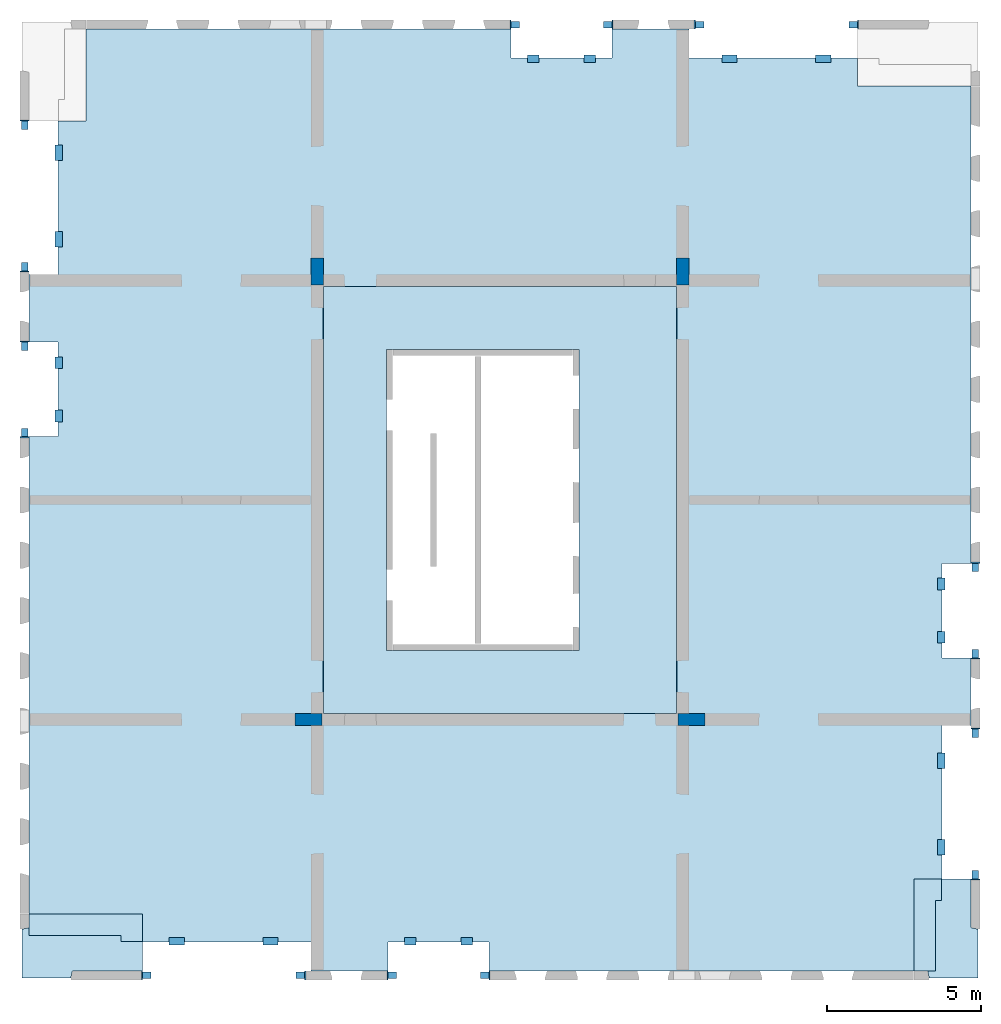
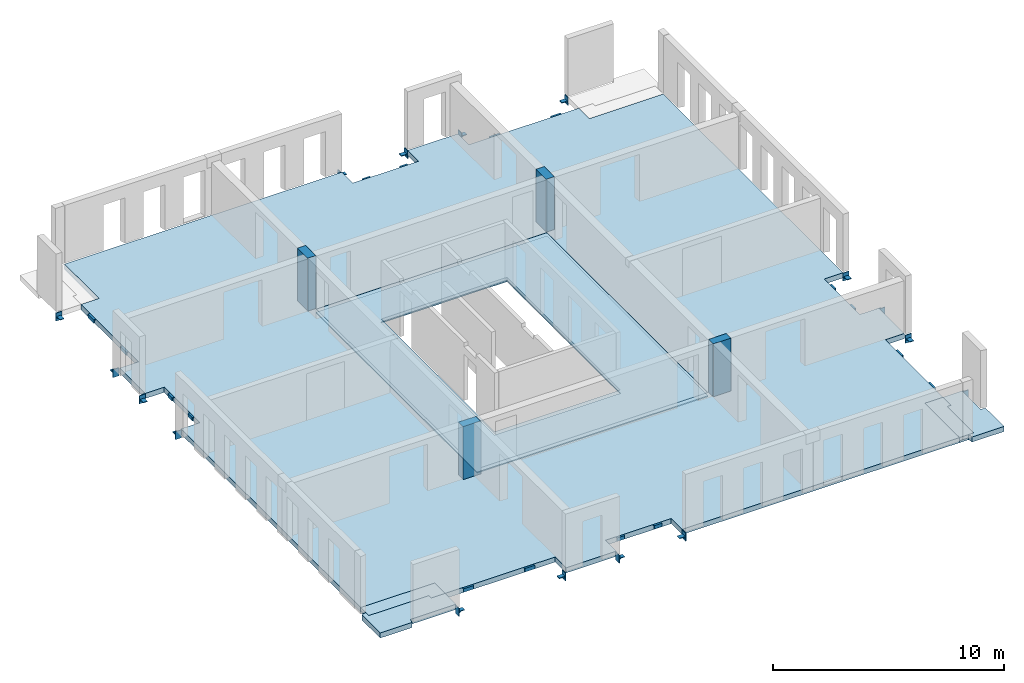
# One storey, part 1 of 4: 32 beams, 7 slabs, 4 columns, 3 openings.
"""IFC2X3 building model written with IfcOpenShell, lengths in millimetres."""

from ifc_helpers import new_model, entity, si_unit, converted_unit, derived_unit, direction, frame, frame_2d, origin, origin_2d_with_axis, place, context, subcontext, project, spatial, polyline, rectangle, outline, extrude, source, transform, mapped, material, layer, layer_set, layer_usage, type_object, type_shapes, element, save


model = new_model("IFC2X3")

# Units and contexts
model_context = context("Model", 3, precision=0.01, world=origin(), true_north=direction((6.12303176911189e-17, 1.0)))
body_context = subcontext(model_context, "Body", "Model", "MODEL_VIEW")
ifc_project = project(units=[si_unit("LENGTHUNIT", "METRE", prefix="MILLI"), si_unit("AREAUNIT", "SQUARE_METRE"), si_unit("VOLUMEUNIT", "CUBIC_METRE"), converted_unit("PLANEANGLEUNIT", "DEGREE", entity("IfcRatioMeasure", 0.0174532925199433), si_unit("PLANEANGLEUNIT", "RADIAN"), dimensions=[0, 0, 0, 0, 0, 0, 0]), si_unit("MASSUNIT", "GRAM", prefix="KILO"), derived_unit("MASSDENSITYUNIT", [(si_unit("MASSUNIT", "GRAM", prefix="KILO"), 1), (si_unit("LENGTHUNIT", "METRE"), -3)]), si_unit("TIMEUNIT", "SECOND"), si_unit("FREQUENCYUNIT", "HERTZ"), si_unit("THERMODYNAMICTEMPERATUREUNIT", "DEGREE_CELSIUS"), derived_unit("THERMALTRANSMITTANCEUNIT", [(si_unit("MASSUNIT", "GRAM", prefix="KILO"), 1), (si_unit("THERMODYNAMICTEMPERATUREUNIT", "KELVIN"), -1), (si_unit("TIMEUNIT", "SECOND"), -3)]), derived_unit("VOLUMETRICFLOWRATEUNIT", [(si_unit("LENGTHUNIT", "METRE"), 3), (si_unit("TIMEUNIT", "SECOND"), -1)]), si_unit("ELECTRICCURRENTUNIT", "AMPERE"), si_unit("ELECTRICVOLTAGEUNIT", "VOLT"), si_unit("POWERUNIT", "WATT"), si_unit("FORCEUNIT", "NEWTON", prefix="KILO"), si_unit("ILLUMINANCEUNIT", "LUX"), si_unit("LUMINOUSFLUXUNIT", "LUMEN"), si_unit("LUMINOUSINTENSITYUNIT", "CANDELA"), derived_unit("USERDEFINED", [(si_unit("MASSUNIT", "GRAM", prefix="KILO"), -1), (si_unit("LENGTHUNIT", "METRE"), -2), (si_unit("TIMEUNIT", "SECOND"), 3), (si_unit("LUMINOUSFLUXUNIT", "LUMEN"), 1)]), derived_unit("LINEARVELOCITYUNIT", [(si_unit("LENGTHUNIT", "METRE"), 1), (si_unit("TIMEUNIT", "SECOND"), -1)]), si_unit("PRESSUREUNIT", "PASCAL"), derived_unit("USERDEFINED", [(si_unit("LENGTHUNIT", "METRE"), -2), (si_unit("MASSUNIT", "GRAM", prefix="KILO"), 1), (si_unit("TIMEUNIT", "SECOND"), -2)])], contexts=[model_context])

# Site, building, storey
site_placement = place(None, origin())
site = spatial("IfcSite", under=ifc_project, at=site_placement, Name="Default", CompositionType="ELEMENT")
building_placement = place(site_placement, origin())
building = spatial("IfcBuilding", under=site, at=building_placement, Name="niet gebruiken", CompositionType="ELEMENT")
storey_placement = place(building_placement, frame((0.0, 0.0, 79200.0)))
storey = spatial("IfcBuildingStorey", under=building, at=storey_placement, Name="25 vijfentwintigste verdieping", CompositionType="ELEMENT", Elevation=79200.0000000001)

# Columns
ifc_material_1 = material(Name="NLRS_f2_beton ihwg")
column_type_1 = type_object("IfcColumnType", Name="400x880", PredefinedType="COLUMN", material=ifc_material_1)
shared_shape_1 = source(origin(), body_context, "Body", "SweptSolid", [
    extrude(rectangle(XDim=879.999999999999, YDim=399.999999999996, at=frame_2d((0.0, -1.73230318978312e-11), x_axis=(1.0, 0.0))), frame((135800.0, 24940.0, 79110.0), z_axis=(0.0, 0.0, 1.0), x_axis=(0.0, -1.0, 0.0)), (0.0, 0.0, 1.0), 2789.99999999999),
])
type_shapes(column_type_1, [shared_shape_1])
column_1_placement = place(storey_placement, frame((0.0, 0.0, -79200.0)))
element("IfcColumn", 1, at=column_1_placement, inside=storey, type_object=column_type_1, material=ifc_material_1, Name="NLRS_28.11_SCO_TLB_beton kolom ihwg_gen:400x880", ObjectType="400x880", context=body_context, shape_type="MappedRepresentation", body=[
    mapped(shared_shape_1, transform((0.0, 0.0, 0.0), scale=1.0)),
])
column_type_2 = type_object("IfcColumnType", Name="400x880", PredefinedType="COLUMN", material=ifc_material_1)
shared_shape_2 = source(origin(), body_context, "Body", "SweptSolid", [
    extrude(rectangle(XDim=879.999999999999, YDim=399.999999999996, at=origin_2d_with_axis()), frame((147700.0, 24940.0, 79110.0), z_axis=(0.0, 0.0, 1.0), x_axis=(0.0, -1.0, 0.0)), (0.0, 0.0, 1.0), 2789.99999999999),
])
type_shapes(column_type_2, [shared_shape_2])
column_2_placement = place(storey_placement, frame((0.0, 0.0, -79200.0)))
element("IfcColumn", 2, at=column_2_placement, inside=storey, type_object=column_type_2, material=ifc_material_1, Name="NLRS_28.11_SCO_TLB_beton kolom ihwg_gen:400x880", ObjectType="400x880", context=body_context, shape_type="MappedRepresentation", body=[
    mapped(shared_shape_2, transform((0.0, 0.0, 0.0), scale=1.0)),
])
column_type_3 = type_object("IfcColumnType", Name="400x880", PredefinedType="COLUMN", material=ifc_material_1)
shared_shape_3 = source(origin(), body_context, "Body", "SweptSolid", [
    extrude(rectangle(XDim=400.000000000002, YDim=880.000000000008, at=origin_2d_with_axis()), frame((135510.003540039, 10350.0, 79110.0), z_axis=(0.0, 0.0, 1.0), x_axis=(0.0, -1.0, 0.0)), (0.0, 0.0, 1.0), 2789.99999999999),
])
type_shapes(column_type_3, [shared_shape_3])
column_3_placement = place(storey_placement, frame((0.0, 0.0, -79200.0)))
element("IfcColumn", 3, at=column_3_placement, inside=storey, type_object=column_type_3, material=ifc_material_1, Name="NLRS_28.11_SCO_TLB_beton kolom ihwg_gen:400x880", ObjectType="400x880", context=body_context, shape_type="MappedRepresentation", body=[
    mapped(shared_shape_3, transform((0.0, 0.0, 0.0), scale=1.0)),
])
column_type_4 = type_object("IfcColumnType", Name="400x880", PredefinedType="COLUMN", material=ifc_material_1)
shared_shape_4 = source(origin(), body_context, "Body", "SweptSolid", [
    extrude(rectangle(XDim=400.000000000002, YDim=880.000000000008, at=origin_2d_with_axis()), frame((147990.0, 10350.0, 79110.0), z_axis=(0.0, 0.0, 1.0), x_axis=(0.0, -1.0, 0.0)), (0.0, 0.0, 1.0), 2789.99999999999),
])
type_shapes(column_type_4, [shared_shape_4])
column_4_placement = place(storey_placement, frame((0.0, 0.0, -79200.0)))
element("IfcColumn", 4, at=column_4_placement, inside=storey, type_object=column_type_4, material=ifc_material_1, Name="NLRS_28.11_SCO_TLB_beton kolom ihwg_gen:400x880", ObjectType="400x880", context=body_context, shape_type="MappedRepresentation", body=[
    mapped(shared_shape_4, transform((0.0, 0.0, 0.0), scale=1.0)),
])

# Beams
ifc_material_2 = material(Name="NLRS_h2_staal")
beam_type_1 = type_object("IfcBeamType", Name="NLRS_28.11_SF_WPB_stalen schoen 4_gen", PredefinedType="BEAM", material=ifc_material_2)
shared_shape_5 = source(origin(), body_context, "Body", "SweptSolid", [
    extrude(outline(polyline([(-69.4999999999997, -23.0), (8.49999999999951, -23.0), (30.5, -1.0), (30.5000000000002, 47.0), (-69.4999999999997, -23.0)])), frame((-105.0, -109.499999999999, -58.0), z_axis=(1.0, 0.0, 0.0), x_axis=(0.0, -1.0, 0.0)), (0.0, 0.0, 1.0), 35.0),
    extrude(outline(polyline([(-69.4999999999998, -23.0), (8.49999999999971, -23.0), (30.5, -1.0), (30.5000000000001, 47.0), (-69.4999999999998, -23.0)])), frame((70.0, -109.499999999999, -58.0), z_axis=(1.0, 0.0, 0.0), x_axis=(0.0, -1.0, 0.0)), (0.0, 0.0, 1.0), 35.0),
    extrude(rectangle(XDim=300.0, YDim=34.9999999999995, at=origin_2d_with_axis()), frame((0.0, -157.5, -230.0), z_axis=(0.0, 0.0, 1.0), x_axis=(-1.0, 0.0, 0.0)), (0.0, 0.0, 1.0), 420.0),
    extrude(rectangle(XDim=210.000000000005, YDim=274.999999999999, at=origin_2d_with_axis()), frame((0.0, -2.4999999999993, -35.0), z_axis=(0.0, 0.0, 1.0), x_axis=(-1.0, 0.0, 0.0)), (0.0, 0.0, 1.0), 35.0),
])
type_shapes(beam_type_1, [shared_shape_5])
beam_1_placement = place(storey_placement, frame((157230.0, 12500.0, -310.0)))
element("IfcBeam", 5, at=beam_1_placement, inside=storey, type_object=beam_type_1, material=ifc_material_2, Name="NLRS_28.11_SF_WPB_stalen schoen 4_gen:NLRS_28.11_SF_WPB_stalen schoen 4_gen", ObjectType="NLRS_28.11_SF_WPB_stalen schoen 4_gen", context=body_context, shape_type="MappedRepresentation", body=[
    mapped(shared_shape_5, transform((0.0, 0.0, 0.0), scale=1.0)),
])
for number, where, z_axis, x_axis, name in (
    (6, (157230.0, 15300.0, -310.0), (0.0, 0.0, 1.0), (-1.0, 0.0, 0.0), "NLRS_28.11_SF_WPB_stalen schoen 4_gen:NLRS_28.11_SF_WPB_stalen schoen 4_gen"),
    (7, (126270.0, 22500.0, -310.0), (0.0, 0.0, 1.0), (-1.0, 0.0, 0.0), "NLRS_28.11_SF_WPB_stalen schoen 4_gen:NLRS_28.11_SF_WPB_stalen schoen 4_gen"),
):
    element("IfcBeam", number, at=place(storey_placement, frame(where, z_axis=z_axis, x_axis=x_axis)), inside=storey, type_object=beam_type_1, material=ifc_material_2, Name=name, ObjectType="NLRS_28.11_SF_WPB_stalen schoen 4_gen", context=body_context, shape_type="MappedRepresentation", body=[
        mapped(shared_shape_5, transform((0.0, 0.0, 0.0), scale=1.0)),
    ])
beam_2_placement = place(storey_placement, frame((126270.0, 19700.0, -310.0)))
element("IfcBeam", 8, at=beam_2_placement, inside=storey, type_object=beam_type_1, material=ifc_material_2, Name="NLRS_28.11_SF_WPB_stalen schoen 4_gen:NLRS_28.11_SF_WPB_stalen schoen 4_gen", ObjectType="NLRS_28.11_SF_WPB_stalen schoen 4_gen", context=body_context, shape_type="MappedRepresentation", body=[
    mapped(shared_shape_5, transform((0.0, 0.0, 0.0), scale=1.0)),
])
for number, where, z_axis, x_axis, name in (
    (9, (138250.0, 2020.0, -310.0), (0.0, 0.0, 1.0), (0.0, -1.0, 0.0), "NLRS_28.11_SF_WPB_stalen schoen 4_gen:NLRS_28.11_SF_WPB_stalen schoen 4_gen"),
    (10, (141250.0, 2020.0, -310.0), (0.0, 0.0, 1.0), (0.0, 1.0, 0.0), "NLRS_28.11_SF_WPB_stalen schoen 4_gen:NLRS_28.11_SF_WPB_stalen schoen 4_gen"),
    (11, (145250.0, 32980.0, -310.0), (0.0, 0.0, 1.0), (0.0, 1.0, 0.0), "NLRS_28.11_SF_WPB_stalen schoen 4_gen:NLRS_28.11_SF_WPB_stalen schoen 4_gen"),
    (12, (142250.0, 32980.0, -310.0), (0.0, 0.0, 1.0), (0.0, -1.0, 0.0), "NLRS_28.11_SF_WPB_stalen schoen 4_gen:NLRS_28.11_SF_WPB_stalen schoen 4_gen"),
):
    element("IfcBeam", number, at=place(storey_placement, frame(where, z_axis=z_axis, x_axis=x_axis)), inside=storey, type_object=beam_type_1, material=ifc_material_2, Name=name, ObjectType="NLRS_28.11_SF_WPB_stalen schoen 4_gen", context=body_context, shape_type="MappedRepresentation", body=[
        mapped(shared_shape_5, transform((0.0, 0.0, 0.0), scale=1.0)),
    ])
beam_type_2 = type_object("IfcBeamType", Name="NLRS_28.11_SF_WPB_stalen schoen 3_gen", PredefinedType="BEAM", material=ifc_material_2)
shared_shape_6 = source(origin(), body_context, "Body", "SweptSolid", [
    extrude(outline(polyline([(-69.4999999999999, -23.0), (8.49999999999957, -23.0), (30.5000000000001, -1.0), (30.5000000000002, 47.0), (-69.4999999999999, -23.0)])), frame((-105.0, -109.499999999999, -63.0), z_axis=(1.0, 0.0, 0.0), x_axis=(0.0, -1.0, 0.0)), (0.0, 0.0, 1.0), 40.0),
    extrude(outline(polyline([(-69.4999999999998, -23.0), (8.49999999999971, -23.0), (30.5, -1.0), (30.5000000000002, 47.0), (-69.4999999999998, -23.0)])), frame((65.0, -109.499999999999, -63.0), z_axis=(1.0, 0.0, 0.0), x_axis=(0.0, -1.0, 0.0)), (0.0, 0.0, 1.0), 40.0),
    extrude(rectangle(XDim=300.0, YDim=39.9999999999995, at=origin_2d_with_axis()), frame((0.0, -160.0, -230.0), z_axis=(0.0, 0.0, 1.0), x_axis=(-1.0, 0.0, 0.0)), (0.0, 0.0, 1.0), 420.0),
    extrude(rectangle(XDim=210.000000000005, YDim=274.999999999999, at=origin_2d_with_axis()), frame((0.0, -2.49999999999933, -40.0), z_axis=(0.0, 0.0, 1.0), x_axis=(-1.0, 0.0, 0.0)), (0.0, 0.0, 1.0), 39.9999999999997),
])
type_shapes(beam_type_2, [shared_shape_6])
beam_3_placement = place(storey_placement, frame((157230.0, 9900.0, -310.0), z_axis=(0.0, 0.0, 1.0), x_axis=(-1.0, 0.0, 0.0)))
element("IfcBeam", 13, at=beam_3_placement, inside=storey, type_object=beam_type_2, material=ifc_material_2, Name="NLRS_28.11_SF_WPB_stalen schoen 3_gen:NLRS_28.11_SF_WPB_stalen schoen 3_gen", ObjectType="NLRS_28.11_SF_WPB_stalen schoen 3_gen", context=body_context, shape_type="MappedRepresentation", body=[
    mapped(shared_shape_6, transform((0.0, 0.0, 0.0), scale=1.0)),
])
for number, where, name in (
    (14, (157230.0, 5300.0, -310.0), "NLRS_28.11_SF_WPB_stalen schoen 3_gen:NLRS_28.11_SF_WPB_stalen schoen 3_gen"),
    (15, (126270.0, 25100.0, -310.0), "NLRS_28.11_SF_WPB_stalen schoen 3_gen:NLRS_28.11_SF_WPB_stalen schoen 3_gen"),
):
    element("IfcBeam", number, at=place(storey_placement, frame(where)), inside=storey, type_object=beam_type_2, material=ifc_material_2, Name=name, ObjectType="NLRS_28.11_SF_WPB_stalen schoen 3_gen", context=body_context, shape_type="MappedRepresentation", body=[
        mapped(shared_shape_6, transform((0.0, 0.0, 0.0), scale=1.0)),
    ])
for number, where, z_axis, x_axis, name in (
    (16, (126270.0, 29700.0, -310.0), (0.0, 0.0, 1.0), (-1.0, 0.0, 0.0), "NLRS_28.11_SF_WPB_stalen schoen 3_gen:NLRS_28.11_SF_WPB_stalen schoen 3_gen"),
    (17, (135250.0, 2020.0, -310.0), (0.0, 0.0, 1.0), (0.0, 1.0, 0.0), "NLRS_28.11_SF_WPB_stalen schoen 3_gen:NLRS_28.11_SF_WPB_stalen schoen 3_gen"),
    (18, (130250.0, 2020.0, -310.0), (0.0, 0.0, 1.0), (0.0, -1.0, 0.0), "NLRS_28.11_SF_WPB_stalen schoen 3_gen:NLRS_28.11_SF_WPB_stalen schoen 3_gen"),
    (19, (148250.0, 32980.0, -310.0), (0.0, 0.0, 1.0), (0.0, -1.0, 0.0), "NLRS_28.11_SF_WPB_stalen schoen 3_gen:NLRS_28.11_SF_WPB_stalen schoen 3_gen"),
    (20, (153250.0, 32980.0, -310.0), (0.0, 0.0, 1.0), (0.0, 1.0, 0.0), "NLRS_28.11_SF_WPB_stalen schoen 3_gen:NLRS_28.11_SF_WPB_stalen schoen 3_gen"),
):
    element("IfcBeam", number, at=place(storey_placement, frame(where, z_axis=z_axis, x_axis=x_axis)), inside=storey, type_object=beam_type_2, material=ifc_material_2, Name=name, ObjectType="NLRS_28.11_SF_WPB_stalen schoen 3_gen", context=body_context, shape_type="MappedRepresentation", body=[
        mapped(shared_shape_6, transform((0.0, 0.0, 0.0), scale=1.0)),
    ])
beam_type_3 = type_object("IfcBeamType", Name="NLRS_28.11_SF_WPB_stalen handje 7 lang 375_gen:NLRS_28.11_SF_WPB_stalen handje 7_gen", PredefinedType="BEAM")
beam_4_placement = place(storey_placement, frame((156235.125015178, 9255.24886461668, -93.0), z_axis=(0.0, 0.0, 1.0), x_axis=(0.0, -1.0, 0.0)))
element("IfcBeam", 21, at=beam_4_placement, inside=storey, type_object=beam_type_3, material=ifc_material_2, Name="NLRS_28.11_SF_WPB_stalen handje 7 lang 375_gen:NLRS_28.11_SF_WPB_stalen handje 7_gen", ObjectType="NLRS_28.11_SF_WPB_stalen handje 7 lang 375_gen:NLRS_28.11_SF_WPB_stalen handje 7_gen", context=body_context, shape_type="SweptSolid", body=[
    extrude(outline(polyline([(-70.6666666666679, -153.33333333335), (-40.6666666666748, -153.33333333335), (-40.6666666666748, 61.6666666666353), (111.333333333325, 61.6666666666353), (111.333333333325, 91.6666666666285), (-70.6666666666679, 91.6666666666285), (-70.6666666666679, -153.33333333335)])), frame((0.0, -91.6666666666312, -70.6666666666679), z_axis=(1.0, 0.0, 0.0), x_axis=(0.0, 0.0, -1.0)), (0.0, 0.0, 1.0), 500.000000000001),
])
beam_5_placement = place(storey_placement, frame((156235.125015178, 6445.24582437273, -93.0), z_axis=(0.0, 0.0, 1.0), x_axis=(0.0, -1.0, 0.0)))
element("IfcBeam", 22, at=beam_5_placement, inside=storey, type_object=beam_type_3, material=ifc_material_2, Name="NLRS_28.11_SF_WPB_stalen handje 7 lang 375_gen:NLRS_28.11_SF_WPB_stalen handje 7_gen", ObjectType="NLRS_28.11_SF_WPB_stalen handje 7 lang 375_gen:NLRS_28.11_SF_WPB_stalen handje 7_gen", context=body_context, shape_type="SweptSolid", body=[
    extrude(outline(polyline([(-70.6666666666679, -153.33333333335), (-40.6666666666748, -153.33333333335), (-40.6666666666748, 61.6666666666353), (111.333333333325, 61.6666666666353), (111.333333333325, 91.6666666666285), (-70.6666666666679, 91.6666666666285), (-70.6666666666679, -153.33333333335)])), frame((0.0, -91.6666666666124, -70.6666666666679), z_axis=(1.0, 0.0, 0.0), x_axis=(0.0, 0.0, -1.0)), (0.0, 0.0, 1.0), 500.000000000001),
])
beam_6_placement = place(storey_placement, frame((127264.874984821, 25744.7511353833, -93.0), z_axis=(0.0, 0.0, 1.0), x_axis=(0.0, 1.0, 0.0)))
element("IfcBeam", 23, at=beam_6_placement, inside=storey, type_object=beam_type_3, material=ifc_material_2, Name="NLRS_28.11_SF_WPB_stalen handje 7 lang 375_gen:NLRS_28.11_SF_WPB_stalen handje 7_gen", ObjectType="NLRS_28.11_SF_WPB_stalen handje 7 lang 375_gen:NLRS_28.11_SF_WPB_stalen handje 7_gen", context=body_context, shape_type="SweptSolid", body=[
    extrude(outline(polyline([(-70.6666666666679, -153.333333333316), (-40.6666666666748, -153.333333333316), (-40.6666666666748, 61.6666666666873), (111.333333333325, 61.66666666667), (111.333333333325, 91.6666666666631), (-70.6666666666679, 91.6666666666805), (-70.6666666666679, -153.333333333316)])), frame((0.0, -91.6666666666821, -70.6666666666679), z_axis=(1.0, 0.0, 0.0), x_axis=(0.0, 0.0, -1.0)), (0.0, 0.0, 1.0), 500.000000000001),
])
beam_7_placement = place(storey_placement, frame((127264.874984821, 28554.7541756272, -93.0), z_axis=(0.0, 0.0, 1.0), x_axis=(0.0, 1.0, 0.0)))
element("IfcBeam", 24, at=beam_7_placement, inside=storey, type_object=beam_type_3, material=ifc_material_2, Name="NLRS_28.11_SF_WPB_stalen handje 7 lang 375_gen:NLRS_28.11_SF_WPB_stalen handje 7_gen", ObjectType="NLRS_28.11_SF_WPB_stalen handje 7 lang 375_gen:NLRS_28.11_SF_WPB_stalen handje 7_gen", context=body_context, shape_type="SweptSolid", body=[
    extrude(outline(polyline([(-70.6666666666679, -153.333333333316), (-40.6666666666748, -153.333333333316), (-40.6666666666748, 61.6666666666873), (111.333333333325, 61.66666666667), (111.333333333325, 91.6666666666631), (-70.6666666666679, 91.6666666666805), (-70.6666666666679, -153.333333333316)])), frame((0.0, -91.66666666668, -70.6666666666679), z_axis=(1.0, 0.0, 0.0), x_axis=(0.0, 0.0, -1.0)), (0.0, 0.0, 1.0), 500.000000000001),
])
for number, where, z_axis, x_axis, name in (
    (25, (140862.631597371, 3015.23611279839, -93.0), (0.0, 0.0, 1.0), (-1.0, 0.0, 0.0), "NLRS_28.11_SF_WPB_stalen handje 7 lang 375_gen:NLRS_28.11_SF_WPB_stalen handje 7_gen"),
    (26, (139012.628555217, 3015.23611279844, -93.0), (0.0, 0.0, 1.0), (-1.0, 0.0, 0.0), "NLRS_28.11_SF_WPB_stalen handje 7 lang 375_gen:NLRS_28.11_SF_WPB_stalen handje 7_gen"),
):
    element("IfcBeam", number, at=place(storey_placement, frame(where, z_axis=z_axis, x_axis=x_axis)), inside=storey, type_object=beam_type_3, material=ifc_material_2, Name=name, ObjectType="NLRS_28.11_SF_WPB_stalen handje 7 lang 375_gen:NLRS_28.11_SF_WPB_stalen handje 7_gen", context=body_context, shape_type="SweptSolid", body=[
        extrude(outline(polyline([(-70.6666666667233, -153.333333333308), (-40.6666666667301, -153.333333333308), (-40.6666666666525, 61.6666666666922), (111.333333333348, 61.6666666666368), (111.333333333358, 91.6666666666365), (-70.6666666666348, 91.6666666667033), (-70.6666666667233, -153.333333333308)])), frame((0.0, -91.6666666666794, -70.6666666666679), z_axis=(1.0, 0.0, 0.0), x_axis=(0.0, 0.0, -1.0)), (0.0, 0.0, 1.0), 375.000000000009),
    ])
for number, where, z_axis, x_axis, name in (
    (27, (134525.131597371, 3015.23611279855, -93.0), (0.0, 0.0, 1.0), (-1.0, 0.0, 0.0), "NLRS_28.11_SF_WPB_stalen handje 7 lang 375_gen:NLRS_28.11_SF_WPB_stalen handje 7_gen"),
    (28, (131475.128555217, 3015.23611279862, -93.0), (0.0, 0.0, 1.0), (-1.0, 0.0, 0.0), "NLRS_28.11_SF_WPB_stalen handje 7 lang 375_gen:NLRS_28.11_SF_WPB_stalen handje 7_gen"),
):
    element("IfcBeam", number, at=place(storey_placement, frame(where, z_axis=z_axis, x_axis=x_axis)), inside=storey, type_object=beam_type_3, material=ifc_material_2, Name=name, ObjectType="NLRS_28.11_SF_WPB_stalen handje 7 lang 375_gen:NLRS_28.11_SF_WPB_stalen handje 7_gen", context=body_context, shape_type="SweptSolid", body=[
        extrude(outline(polyline([(-70.6666666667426, -153.333333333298), (-40.6666666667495, -153.333333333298), (-40.6666666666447, 61.6666666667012), (111.333333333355, 61.6666666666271), (111.33333333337, 91.6666666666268), (-70.6666666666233, 91.666666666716), (-70.6666666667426, -153.333333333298)])), frame((0.0, -91.6666666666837, -70.6666666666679), z_axis=(1.0, 0.0, 0.0), x_axis=(0.0, 0.0, -1.0)), (0.0, 0.0, 1.0), 500.000000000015),
    ])
for number, where, name in (
    (29, (142637.368402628, 31984.7638872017, -93.0), "NLRS_28.11_SF_WPB_stalen handje 7 lang 375_gen:NLRS_28.11_SF_WPB_stalen handje 7_gen"),
    (30, (144487.371444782, 31984.7638872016, -93.0), "NLRS_28.11_SF_WPB_stalen handje 7 lang 375_gen:NLRS_28.11_SF_WPB_stalen handje 7_gen"),
):
    element("IfcBeam", number, at=place(storey_placement, frame(where)), inside=storey, type_object=beam_type_3, material=ifc_material_2, Name=name, ObjectType="NLRS_28.11_SF_WPB_stalen handje 7 lang 375_gen:NLRS_28.11_SF_WPB_stalen handje 7_gen", context=body_context, shape_type="SweptSolid", body=[
        extrude(outline(polyline([(-70.6666666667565, -153.333333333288), (-40.6666666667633, -153.333333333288), (-40.6666666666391, 61.6666666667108), (111.333333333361, 61.666666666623), (111.333333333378, 91.6666666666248), (-70.666666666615, 91.6666666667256), (-70.6666666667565, -153.333333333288)])), frame((0.0, -91.6666666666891, -70.6666666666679), z_axis=(1.0, 0.0, 0.0), x_axis=(0.0, 0.0, -1.0)), (0.0, 0.0, 1.0), 375.000000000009),
    ])
for number, where, name in (
    (31, (148974.868402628, 31984.7638872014, -93.0), "NLRS_28.11_SF_WPB_stalen handje 7 lang 375_gen:NLRS_28.11_SF_WPB_stalen handje 7_gen"),
    (32, (152024.871444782, 31984.7638872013, -93.0), "NLRS_28.11_SF_WPB_stalen handje 7 lang 375_gen:NLRS_28.11_SF_WPB_stalen handje 7_gen"),
):
    element("IfcBeam", number, at=place(storey_placement, frame(where)), inside=storey, type_object=beam_type_3, material=ifc_material_2, Name=name, ObjectType="NLRS_28.11_SF_WPB_stalen handje 7 lang 375_gen:NLRS_28.11_SF_WPB_stalen handje 7_gen", context=body_context, shape_type="SweptSolid", body=[
        extrude(outline(polyline([(-70.6666666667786, -153.333333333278), (-40.6666666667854, -153.333333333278), (-40.6666666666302, 61.6666666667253), (111.33333333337, 61.6666666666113), (111.333333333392, 91.6666666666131), (-70.6666666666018, 91.6666666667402), (-70.6666666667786, -153.333333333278)])), frame((0.0, -91.6666666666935, -70.6666666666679), z_axis=(1.0, 0.0, 0.0), x_axis=(0.0, 0.0, -1.0)), (0.0, 0.0, 1.0), 500.000000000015),
    ])
beam_8_placement = place(storey_placement, frame((156235.0, 14952.5097115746, -93.0), z_axis=(0.0, 0.0, 1.0), x_axis=(0.0, -1.0, 0.0)))
element("IfcBeam", 33, at=beam_8_placement, inside=storey, type_object=beam_type_3, material=ifc_material_2, Name="NLRS_28.11_SF_WPB_stalen handje 7 lang 375_gen:NLRS_28.11_SF_WPB_stalen handje 7_gen", ObjectType="NLRS_28.11_SF_WPB_stalen handje 7 lang 375_gen:NLRS_28.11_SF_WPB_stalen handje 7_gen", context=body_context, shape_type="SweptSolid", body=[
    extrude(outline(polyline([(-70.6666666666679, -153.333333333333), (-40.6666666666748, -153.333333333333), (-40.6666666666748, 61.66666666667), (111.333333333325, 61.66666666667), (111.333333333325, 91.6666666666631), (-70.6666666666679, 91.6666666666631), (-70.6666666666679, -153.333333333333)])), frame((0.0, -91.6666666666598, -70.6666666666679), z_axis=(1.0, 0.0, 0.0), x_axis=(0.0, 0.0, -1.0)), (0.0, 0.0, 1.0), 375.000000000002),
])
beam_9_placement = place(storey_placement, frame((156235.0, 13222.5097115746, -93.0), z_axis=(0.0, 0.0, 1.0), x_axis=(0.0, -1.0, 0.0)))
element("IfcBeam", 34, at=beam_9_placement, inside=storey, type_object=beam_type_3, material=ifc_material_2, Name="NLRS_28.11_SF_WPB_stalen handje 7 lang 375_gen:NLRS_28.11_SF_WPB_stalen handje 7_gen", ObjectType="NLRS_28.11_SF_WPB_stalen handje 7 lang 375_gen:NLRS_28.11_SF_WPB_stalen handje 7_gen", context=body_context, shape_type="SweptSolid", body=[
    extrude(outline(polyline([(-70.6666666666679, -153.333333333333), (-40.6666666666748, -153.333333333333), (-40.6666666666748, 61.66666666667), (111.333333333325, 61.66666666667), (111.333333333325, 91.6666666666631), (-70.6666666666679, 91.6666666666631), (-70.6666666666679, -153.333333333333)])), frame((0.0, -91.6666666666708, -70.6666666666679), z_axis=(1.0, 0.0, 0.0), x_axis=(0.0, 0.0, -1.0)), (0.0, 0.0, 1.0), 375.000000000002),
])
beam_10_placement = place(storey_placement, frame((127265.0, 20047.4902884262, -93.0), z_axis=(0.0, 0.0, 1.0), x_axis=(0.0, 1.0, 0.0)))
element("IfcBeam", 35, at=beam_10_placement, inside=storey, type_object=beam_type_3, material=ifc_material_2, Name="NLRS_28.11_SF_WPB_stalen handje 7 lang 375_gen:NLRS_28.11_SF_WPB_stalen handje 7_gen", ObjectType="NLRS_28.11_SF_WPB_stalen handje 7 lang 375_gen:NLRS_28.11_SF_WPB_stalen handje 7_gen", context=body_context, shape_type="SweptSolid", body=[
    extrude(outline(polyline([(-70.6666666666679, -153.333333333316), (-40.6666666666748, -153.333333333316), (-40.6666666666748, 61.6666666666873), (111.333333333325, 61.66666666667), (111.333333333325, 91.6666666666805), (-70.6666666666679, 91.6666666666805), (-70.6666666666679, -153.333333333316)])), frame((0.0, -91.6666666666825, -70.6666666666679), z_axis=(1.0, 0.0, 0.0), x_axis=(0.0, 0.0, -1.0)), (0.0, 0.0, 1.0), 375.000000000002),
])
beam_11_placement = place(storey_placement, frame((127265.0, 21777.4902884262, -93.0), z_axis=(0.0, 0.0, 1.0), x_axis=(0.0, 1.0, 0.0)))
element("IfcBeam", 36, at=beam_11_placement, inside=storey, type_object=beam_type_3, material=ifc_material_2, Name="NLRS_28.11_SF_WPB_stalen handje 7 lang 375_gen:NLRS_28.11_SF_WPB_stalen handje 7_gen", ObjectType="NLRS_28.11_SF_WPB_stalen handje 7 lang 375_gen:NLRS_28.11_SF_WPB_stalen handje 7_gen", context=body_context, shape_type="SweptSolid", body=[
    extrude(outline(polyline([(-70.6666666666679, -153.33333333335), (-40.6666666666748, -153.33333333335), (-40.6666666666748, 61.6666666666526), (111.333333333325, 61.6666666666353), (111.333333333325, 91.6666666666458), (-70.6666666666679, 91.6666666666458), (-70.6666666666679, -153.33333333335)])), frame((0.0, -91.6666666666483, -70.6666666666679), z_axis=(1.0, 0.0, 0.0), x_axis=(0.0, 0.0, -1.0)), (0.0, 0.0, 1.0), 375.000000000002),
])

# Slabs
ifc_material_3 = material(Name="NLRS_f2_beton prefab")
ifc_layer_1 = layer(ifc_material_3, 270.0)
ifc_layer_set_1 = layer_set([ifc_layer_1], Name="Floor:NLRS_23.22_FL_beton prefab d=270 3D element_gen")
ifc_layer_usage_1 = layer_usage(ifc_layer_set_1, "AXIS3", "POSITIVE", 0.0)
slab_1_placement = place(storey_placement, origin())
element("IfcSlab", 37, at=slab_1_placement, inside=storey, material=ifc_layer_usage_1, Name="Floor:NLRS_23.22_FL_beton prefab d=270 3D element_gen", ObjectType="Floor:NLRS_23.22_FL_beton prefab d=270 3D element_gen", PredefinedType="LANDING", context=body_context, shape_type="SweptSolid", body=[
    extrude(outline(polyline([(-1034.47139498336, -1100.52860501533), (1955.52860501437, -1100.52860501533), (1955.52860501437, 749.471394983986), (370.152429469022, 749.471394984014), (322.675940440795, 982.471394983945), (-1267.47139498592, 982.471394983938), (-1267.47139498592, -607.675940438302), (-1034.47139498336, -655.152429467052), (-1034.47139498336, -1100.52860501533)])), frame((156330.528605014, 3204.47139498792, -90.0), z_axis=(0.0, 0.0, -1.0), x_axis=(0.0, 1.0, 0.0)), (0.0, 0.0, 1.0), 270.000000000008),
])
ifc_layer_2 = layer(ifc_material_1, 170.0)
ifc_layer_set_2 = layer_set([ifc_layer_2], Name="Floor:NLRS_23.21_FL_beton ihwg d=170_gen")
ifc_layer_usage_2 = layer_usage(ifc_layer_set_2, "AXIS3", "POSITIVE", 0.0)
slab_2_placement = place(storey_placement, origin())
element("IfcSlab", 38, at=slab_2_placement, inside=storey, material=ifc_layer_usage_2, Name="Floor:NLRS_23.21_FL_beton ihwg d=170_gen", ObjectType="Floor:NLRS_23.21_FL_beton ihwg d=170_gen", PredefinedType="FLOOR", context=body_context, shape_type="SweptSolid", body=[
    extrude(outline(polyline([(-1760.0, -533.33333333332), (1230.0, -533.33333333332), (1230.0, 366.666666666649), (530.0, 366.666666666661), (530.0, 166.666666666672), (-1760.0, 166.666666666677), (-1760.0, -533.33333333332)])), frame((155763.333333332, 3930.0, -90.0), z_axis=(0.0, 0.0, -1.0), x_axis=(0.0, 1.0, 0.0)), (0.0, 0.0, 1.0), 169.999999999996),
])
ifc_layer_usage_3 = layer_usage(ifc_layer_set_1, "AXIS3", "POSITIVE", 0.0)
slab_3_placement = place(storey_placement, origin())
element("IfcSlab", 39, at=slab_3_placement, inside=storey, material=ifc_layer_usage_3, Name="Floor:NLRS_23.22_FL_beton prefab d=270 3D element_gen", ObjectType="Floor:NLRS_23.22_FL_beton prefab d=270 3D element_gen", PredefinedType="LANDING", context=body_context, shape_type="SweptSolid", body=[
    extrude(outline(polyline([(-982.471394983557, -1442.47139498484), (607.67594043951, -1442.47139498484), (655.152429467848, -1209.47139498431), (1100.52860501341, -1209.47139498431), (1100.52860501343, 2480.5286050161), (-749.471394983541, 2480.5286050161), (-749.471394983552, 195.15242946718), (-982.47139498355, 147.675940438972), (-982.471394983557, -1442.47139498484)])), frame((127629.471394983, 2919.47139499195, -90.0), z_axis=(0.0, 0.0, -1.0), x_axis=(0.0, 1.0, 0.0)), (0.0, 0.0, 1.0), 270.000000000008),
])
ifc_layer_usage_4 = layer_usage(ifc_layer_set_2, "AXIS3", "POSITIVE", 0.0)
slab_4_placement = place(storey_placement, origin())
element("IfcSlab", 40, at=slab_4_placement, inside=storey, material=ifc_layer_usage_4, Name="Floor:NLRS_23.21_FL_beton ihwg d=170_gen", ObjectType="Floor:NLRS_23.21_FL_beton ihwg d=170_gen", PredefinedType="FLOOR", context=body_context, shape_type="SweptSolid", body=[
    extrude(outline(polyline([(-166.666666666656, -2226.66666666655), (533.333333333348, -2226.66666666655), (533.333333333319, 1463.33333333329), (-366.666666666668, 1463.33333333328), (-366.666666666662, 763.333333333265), (-166.666666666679, 763.333333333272), (-166.666666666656, -2226.66666666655)])), frame((128646.666666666, 3486.66666667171, -90.0), z_axis=(0.0, 0.0, -1.0), x_axis=(0.0, 1.0, 0.0)), (0.0, 0.0, 1.0), 169.999999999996),
])

# Slab, opening
ifc_layer_3 = layer(ifc_material_1, 230.0)
ifc_layer_set_3 = layer_set([ifc_layer_3], Name="Floor:NLRS_23.21_FL_vloer=230_gen")
ifc_layer_usage_5 = layer_usage(ifc_layer_set_3, "AXIS3", "POSITIVE", 0.0)
slab_5_placement = place(storey_placement, frame((136000.0, 10549.7638872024, -320.0)))
slab_5 = element("IfcSlab", 41, at=slab_5_placement, inside=storey, material=ifc_layer_usage_5, Name="Floor:NLRS_23.21_FL_vloer=230_gen", ObjectType="Floor:NLRS_23.21_FL_vloer=230_gen", PredefinedType="FLOOR", context=body_context, shape_type="SweptSolid", body=[
    extrude(rectangle(XDim=13900.2361127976, YDim=11500.0, at=frame_2d((0.0, 0.0), x_axis=(0.0, -1.0))), frame((5750.0, 6950.11805639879, 230.0), z_axis=(0.0, 0.0, -1.0), x_axis=(-1.0, 0.0, 0.0)), (0.0, 0.0, 1.0), 230.0),
])
opening_1_placement = place(slab_5_placement, frame((5190.0, 6950.23611279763, 230.0)))
element("IfcOpeningElement", 42, at=opening_1_placement, cuts=slab_5, Name="Floor:NLRS_23.21_FL_vloer=230_gen:2", ObjectType="Opening", context=body_context, shape_type="SweptSolid", body=[
    extrude(rectangle(XDim=9800.0, YDim=6279.99999999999, at=origin_2d_with_axis()), frame((0.0, 0.0, 0.0), z_axis=(0.0, 0.0, -1.0), x_axis=(0.0, -1.0, 0.0)), (0.0, 0.0, 1.0), 230.0),
])

ifc_layer_4 = layer(ifc_material_1, 170.0)
ifc_layer_5 = layer(ifc_material_3, 100.0)
ifc_layer_set_4 = layer_set([ifc_layer_4, ifc_layer_5], Name="Floor:NLRS_23.21_FL_breedplaat d=100/270_gen")
ifc_layer_usage_6 = layer_usage(ifc_layer_set_4, "AXIS3", "POSITIVE", 0.0)
slab_6_placement = place(storey_placement, frame((126420.0, 2170.0, -360.0)))
slab_6 = element("IfcSlab", 43, at=slab_6_placement, inside=storey, material=ifc_layer_usage_6, Name="Floor:NLRS_23.21_FL_breedplaat d=100/270_gen", ObjectType="Floor:NLRS_23.21_FL_breedplaat d=100/270_gen", PredefinedType="FLOOR", context=body_context, shape_type="SweptSolid", body=[
    extrude(outline(polyline([(-360.0, 15330.0), (-360.0, 14385.0), (-3640.0, 14385.0), (-3640.0, 15330.0), (-6150.0, 15330.0), (-6150.0, 14385.0), (-11640.0, 14385.0), (-11640.0, 13480.0), (-15330.0, 13480.0), (-15330.0, -2060.0), (-14385.0, -2060.0), (-14385.0, -5140.0), (-15330.0, -5140.0), (-15330.0, -7350.0), (-14385.0, -7350.0), (-14385.0, -12340.0), (-13480.0, -12340.0), (-13480.0, -15330.0), (360.0, -15330.0), (360.0, -14385.0), (3640.0, -14385.0), (3640.0, -15330.0), (6150.0, -15330.0), (6150.0, -14385.0), (11640.0, -14385.0), (11640.0, -13480.0), (15330.0, -13480.0), (15330.0, 2060.0), (14385.0, 2060.0), (14385.0, 5140.0), (15330.0, 5140.0), (15330.0, 7350.0), (14385.0, 7350.0), (14385.0, 12340.0), (13480.0, 12340.0), (13480.0, 15330.0), (-360.0, 15330.0)])), frame((15330.0, 15330.0, 270.0), z_axis=(0.0, 0.0, -1.0), x_axis=(-1.0, 0.0, 0.0)), (0.0, 0.0, 1.0), 270.000000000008),
])
opening_2_placement = place(slab_6_placement, frame((15330.0, 15330.0, 270.0)))
element("IfcOpeningElement", 44, at=opening_2_placement, cuts=slab_6, Name="Floor:NLRS_23.21_FL_breedplaat d=100/270_gen:2", ObjectType="Opening", context=body_context, shape_type="SweptSolid", body=[
    extrude(rectangle(XDim=13899.9999999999, YDim=11500.0, at=origin_2d_with_axis()), frame((0.0, 0.0, 0.0), z_axis=(0.0, 0.0, -1.0), x_axis=(0.0, -1.0, 0.0)), (0.0, 0.0, 1.0), 270.000000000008),
])

ifc_layer_6 = layer(ifc_material_3, 60.0)
ifc_layer_set_5 = layer_set([ifc_layer_6], Name="Floor:NLRS_23.21_FL_breedplaat d=60_gen")
ifc_layer_usage_7 = layer_usage(ifc_layer_set_5, "AXIS3", "POSITIVE", 0.0)
slab_7_placement = place(storey_placement, frame((135990.0, 10540.0, -320.0)))
slab_7 = element("IfcSlab", 45, at=slab_7_placement, inside=storey, material=ifc_layer_usage_7, Name="Floor:NLRS_23.21_FL_breedplaat d=60_gen", ObjectType="Floor:NLRS_23.21_FL_breedplaat d=60_gen", PredefinedType="FLOOR", context=body_context, shape_type="SweptSolid", body=[
    extrude(rectangle(XDim=13919.9999999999, YDim=11520.0, at=frame_2d((0.0, 0.0), x_axis=(0.0, -1.0))), frame((5760.0, 6960.0, 60.0), z_axis=(0.0, 0.0, -1.0), x_axis=(-1.0, 0.0, 0.0)), (0.0, 0.0, 1.0), 60.0000000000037),
])
opening_3_placement = place(slab_7_placement, frame((5200.0, 6960.0, 60.0)))
element("IfcOpeningElement", 46, at=opening_3_placement, cuts=slab_7, Name="Floor:NLRS_23.21_FL_breedplaat d=60_gen:2", ObjectType="Opening", context=body_context, shape_type="SweptSolid", body=[
    extrude(rectangle(XDim=9820.0, YDim=6299.99999999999, at=origin_2d_with_axis()), frame((0.0, 0.0, 0.0), z_axis=(0.0, 0.0, -1.0), x_axis=(0.0, -1.0, 0.0)), (0.0, 0.0, 1.0), 60.0000000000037),
])

save(model, "model.ifc")
